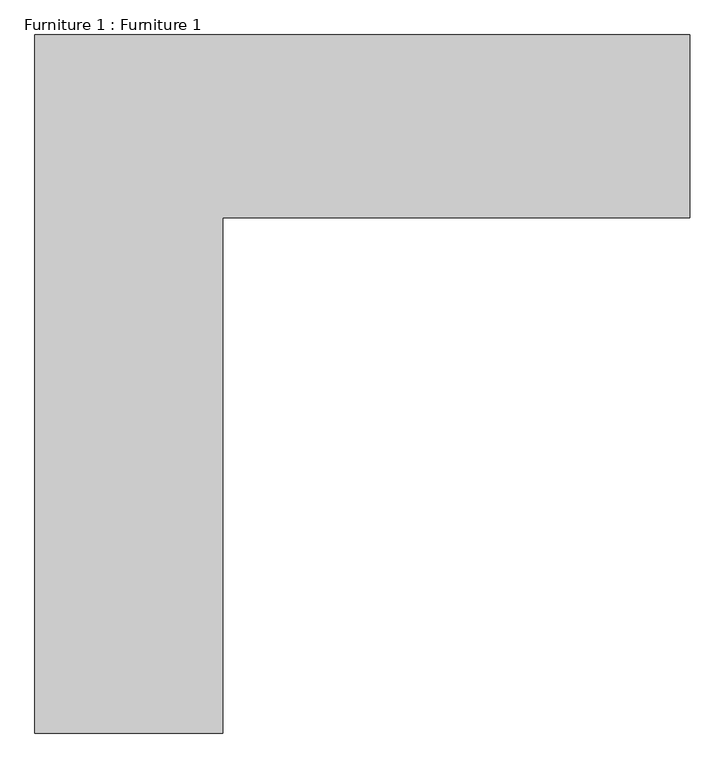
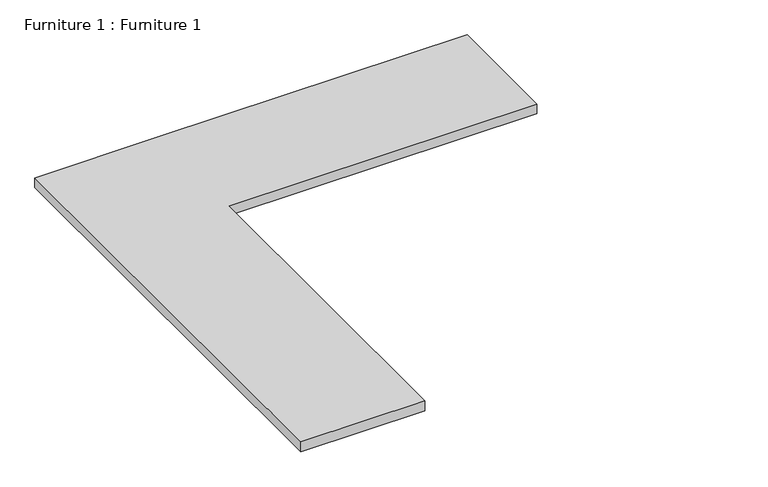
"""IFC4 building model written with IfcOpenShell, lengths in millimetres: furniture geometry, Furniture 1 : Furniture 1."""

from ifc_helpers import new_model, si_unit, frame, origin, place, context, project, spatial, polyline, outline, extrude, source, transform, mapped, element, save


def furniture_1_furniture_1_2df0764f(model_context):
    return source(origin(), model_context, "Body", "SweptSolid", [
        extrude(outline(polyline([(-7894.3141822, -1534.0796527), (-7284.9266822, -1534.0796527), (-5770.9516822, -1534.0796527), (-5770.9516822, -2126.8406402), (-7284.9266822, -2126.8406402), (-7284.9266822, -3798.2671527), (-7894.3141822, -3798.2671527), (-7894.3141822, -1534.0796527)])), frame((0.0, 0.0, 4241.8), z_axis=(0.0, 0.0, 1.0), x_axis=(1.0, 0.0, 0.0)), (0.0, 0.0, 1.0), 50.8),
    ])


if __name__ == "__main__":
    model = new_model("IFC4")
    model_context = context("Model", 3, world=origin())
    ifc_project = project(units=[si_unit("LENGTHUNIT", "METRE", prefix="MILLI")], contexts=[model_context])
    site = spatial("IfcSite", under=ifc_project)
    building = spatial("IfcBuilding", under=site)
    placement = place(None, origin())
    furniture_1_furniture_1_shape = furniture_1_furniture_1_2df0764f(model_context)
    element("IfcFurniture", 1, ObjectType="Furniture 1 : Furniture 1", at=placement, inside=building, context=model_context, shape_type="MappedRepresentation", body=[
        mapped(furniture_1_furniture_1_shape, transform((0.0, 0.0, 0.0), x_axis=(1.0, 0.0, 0.0), y_axis=(0.0, 1.0, 0.0), z_axis=(0.0, 0.0, 1.0))),
    ])
    save(model, "model.ifc")
